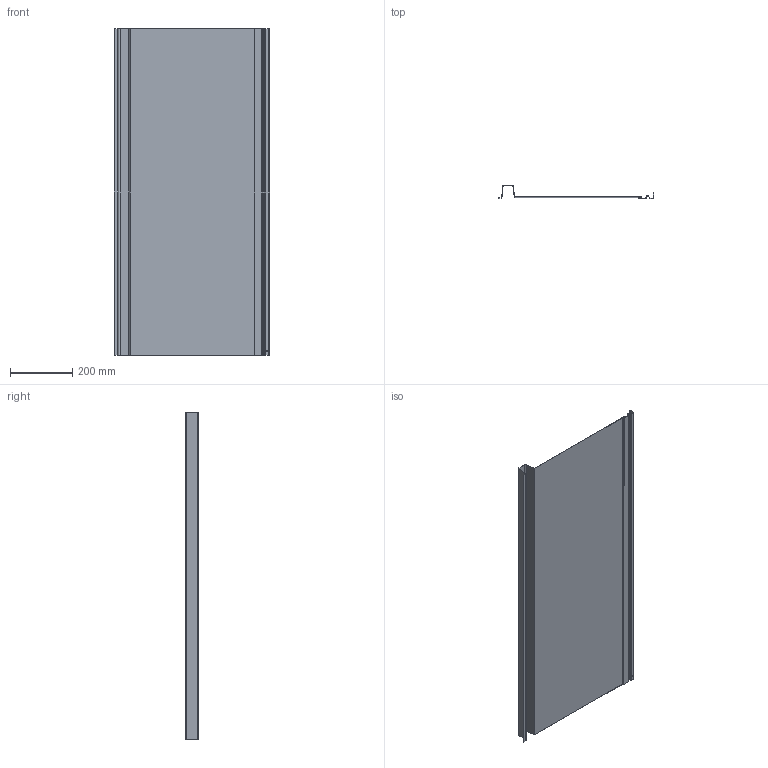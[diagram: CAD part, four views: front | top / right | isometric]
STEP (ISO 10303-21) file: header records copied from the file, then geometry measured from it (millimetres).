
FILE_DESCRIPTION (( 'STEP AP203' ), '1' );
FILE_NAME ('MS3.STEP', '2018-06-13T15:46:00', ( 'Michael Moliner' ), ( '' ), 'SwSTEP 2.0', 'SolidWorks 2018', '' );
FILE_SCHEMA (( 'CONFIG_CONTROL_DESIGN' ));
Length unit declared in the file: inch
Products named in the file (2): MS3
Bounding box: 500.08 x 42.55 x 1049.19 mm (x, y, z)
Volume: 410331.7 mm3; surface area: 1294504.1 mm2
Topology: 1 solids, 1 shells, 54 faces, 156 edges, 104 vertices
Faces by surface type: plane 28, cylinder 26
Entity records: 1953 total; most frequent: DIRECTION 320, CARTESIAN_POINT 316, ORIENTED_EDGE 312, EDGE_CURVE 156, AXIS2_PLACEMENT_3D 108, VERTEX_POINT 104, VECTOR 104, LINE 104
